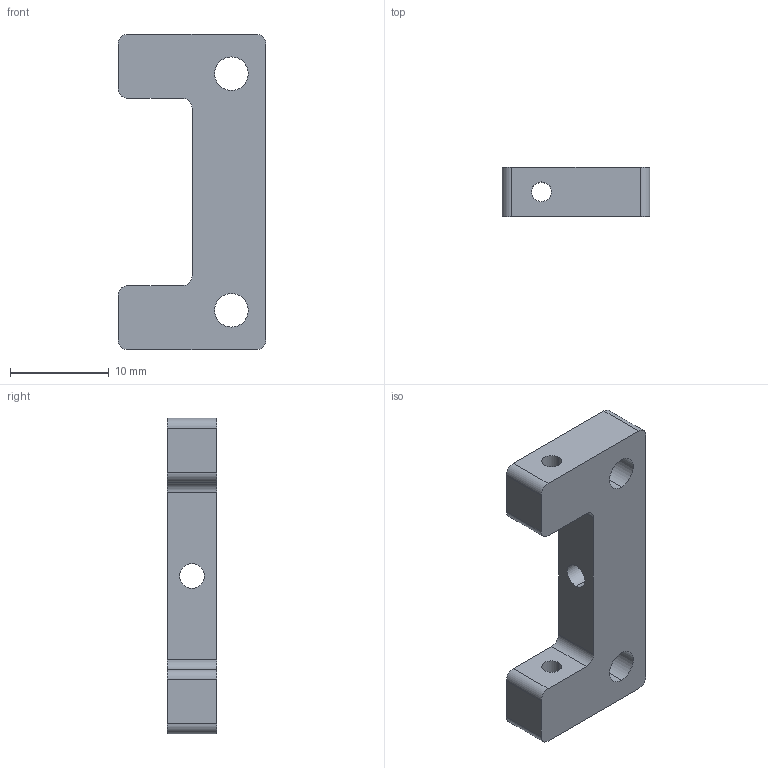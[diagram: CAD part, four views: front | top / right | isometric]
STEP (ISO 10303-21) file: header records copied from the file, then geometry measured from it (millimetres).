
FILE_DESCRIPTION (( 'STEP AP214' ), '1' );
FILE_NAME ('íàïðàâëÿþùàÿ 1.STEP', '2024-12-19T13:24:51', ( '' ), ( '' ), 'SwSTEP 2.0', 'SolidWorks 2021', '' );
FILE_SCHEMA (( 'AUTOMOTIVE_DESIGN' ));
Length unit declared in the file: millimetre
Products named in the file (1): íàïðàâëÿþùàÿ 1
Bounding box: 15 x 5 x 32 mm (x, y, z)
Volume: 1514.8 mm3; surface area: 1389.8 mm2
Topology: 1 solids, 1 shells, 28 faces, 78 edges, 52 vertices
Faces by surface type: cylinder 18, plane 10
Entity records: 972 total; most frequent: DIRECTION 172, CARTESIAN_POINT 159, ORIENTED_EDGE 156, EDGE_CURVE 78, AXIS2_PLACEMENT_3D 65, VERTEX_POINT 52, LINE 42, VECTOR 42
